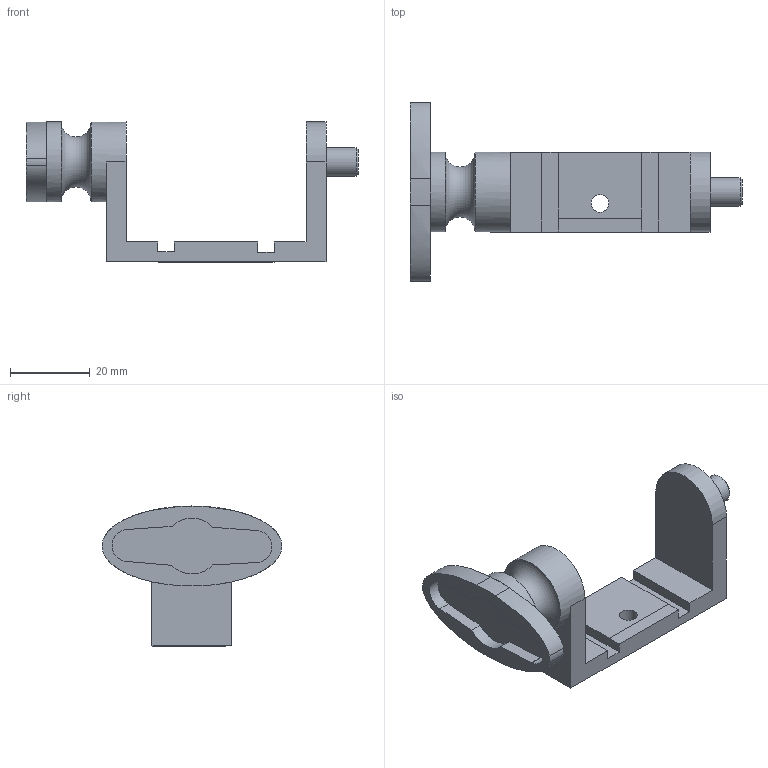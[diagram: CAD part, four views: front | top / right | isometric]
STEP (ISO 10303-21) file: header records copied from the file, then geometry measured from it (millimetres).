
FILE_DESCRIPTION(/* description */ (''),/* implementation_level */ '2;1');
FILE_NAME(/* name */ '/Users/simonhu/OneDrive - FH JOANNEUM/5Semsester/Projekt/3D/turret_final/turret_top.step',/* time_stamp */ '2022-01-27T19:29:22+01:00',/* author */ (''),/* organization */ (''),/* preprocessor_version */ 'ST-DEVELOPER v18.1',/* originating_system */ 'Autodesk Translation Framework v10.13.0.1454',/* authorisation */ '');
FILE_SCHEMA (('AUTOMOTIVE_DESIGN { 1 0 10303 214 3 1 1 }'));
Length unit declared in the file: millimetre
Products named in the file (1): turret_top_redesign_felix_kopie
Bounding box: 83 x 44.98 x 35 mm (x, y, z)
Volume: 16866.3 mm3; surface area: 8692.3 mm2
Topology: 1 solids, 1 shells, 49 faces, 133 edges, 88 vertices
Faces by surface type: plane 29, cylinder 13, bspline 4, cone 2, torus 1
Full cylindrical faces by diameter (mm): 4.4 x1, 7.2 x1, 20 x2
Entity records: 3236 total; most frequent: CARTESIAN_POINT 1976, ORIENTED_EDGE 266, DIRECTION 244, EDGE_CURVE 133, LINE 88, VECTOR 88, VERTEX_POINT 88, AXIS2_PLACEMENT_3D 78
